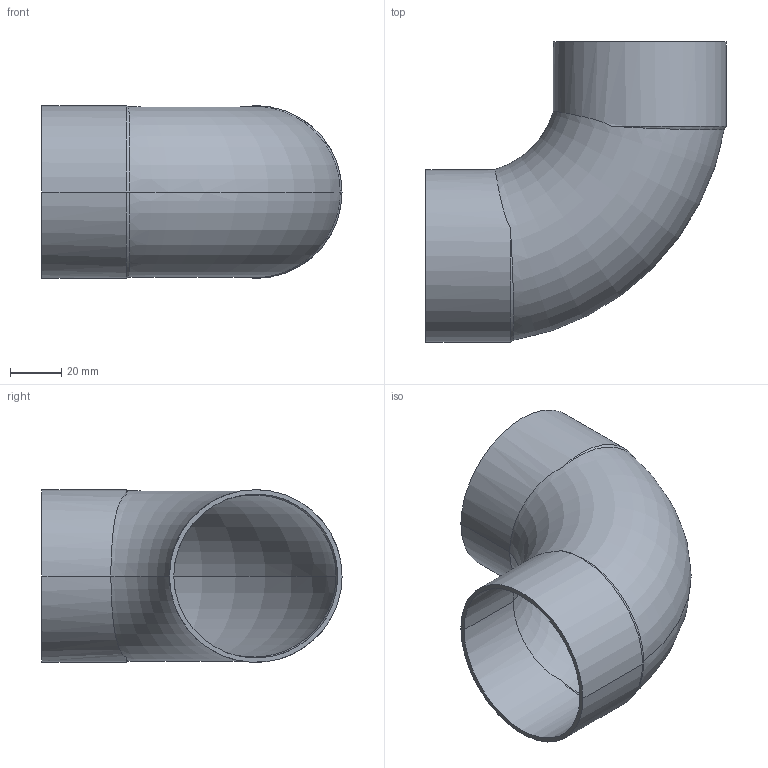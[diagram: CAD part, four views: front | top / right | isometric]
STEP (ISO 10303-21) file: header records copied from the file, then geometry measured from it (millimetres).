
FILE_DESCRIPTION((''),'2;1');
FILE_NAME('G:\SANHA-TERNAT\Technik\Deckel\UUU\Producttek\1509064\1509064(0).stp','2007-07-25T14:40:12',('vdvijverd'),(''),'Autodesk Inventor 8','Autodesk Inventor 8','');
FILE_SCHEMA(('AUTOMOTIVE_DESIGN { 1 0 10303 214 1 1 1 1 }'));
Length unit declared in the file: millimetre
Products named in the file (1): 1509064(0)
Bounding box: 117.2 x 117.2 x 67.4 mm (x, y, z)
Volume: 48915.1 mm3; surface area: 58261.1 mm2
Topology: 1 solids, 1 shells, 22 faces, 53 edges, 33 vertices
Faces by surface type: bspline 9, torus 4, cylinder 4, cone 4, plane 1
Entity records: 957 total; most frequent: CARTESIAN_POINT 472, ORIENTED_EDGE 106, DIRECTION 82, EDGE_CURVE 53, AXIS2_PLACEMENT_3D 35, VERTEX_POINT 33, EDGE_LOOP 24, FACE_OUTER_BOUND 22
